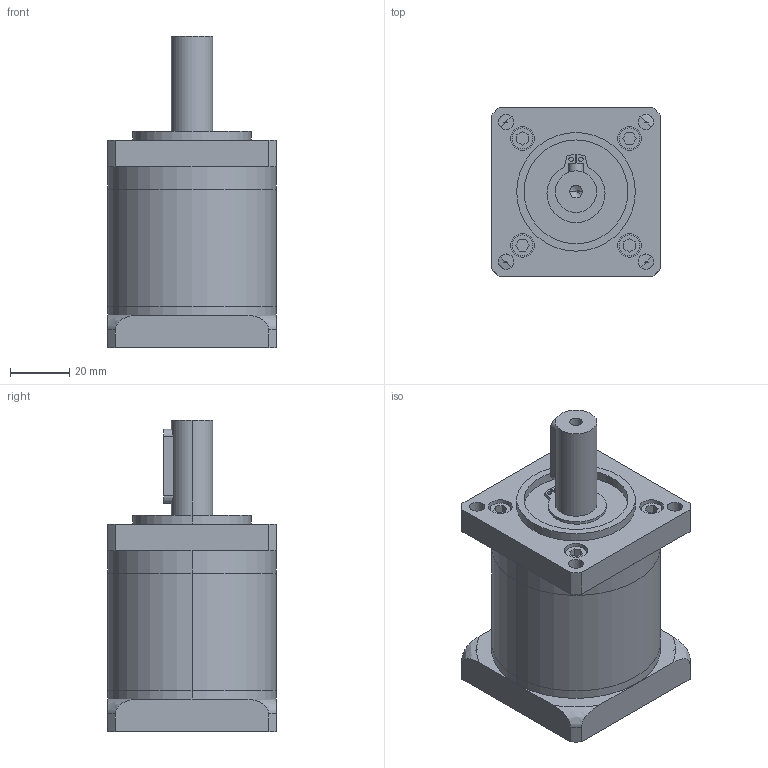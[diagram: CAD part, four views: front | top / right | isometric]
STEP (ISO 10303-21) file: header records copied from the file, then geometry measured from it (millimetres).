
FILE_DESCRIPTION (( 'STEP AP214' ), '1' );
FILE_NAME ('DLF57-L2-( )-J14-A.step', '2020-11-17T06:00:59', ( 'Moofasta' ), ( '' ), 'SwSTEP 2.0', 'SolidWorks 2020', '' );
FILE_SCHEMA (( 'AUTOMOTIVE_DESIGN' ));
Length unit declared in the file: millimetre
Products named in the file (1): DLF57-L2-(    )-J14-A
Bounding box: 57 x 57 x 105 mm (x, y, z)
Volume: 187805.1 mm3; surface area: 43220.8 mm2
Topology: 6 solids, 6 shells, 211 faces, 493 edges, 322 vertices
Faces by surface type: plane 111, cylinder 85, cone 11, bspline 4
Entity records: 6955 total; most frequent: CARTESIAN_POINT 1457, DIRECTION 1065, ORIENTED_EDGE 980, EDGE_CURVE 490, AXIS2_PLACEMENT_3D 384, VERTEX_POINT 322, VECTOR 297, LINE 297
